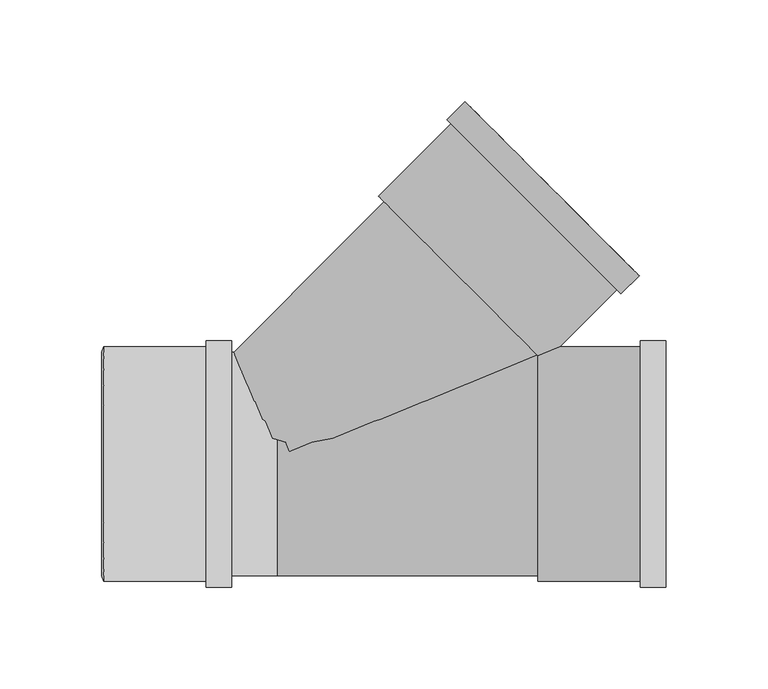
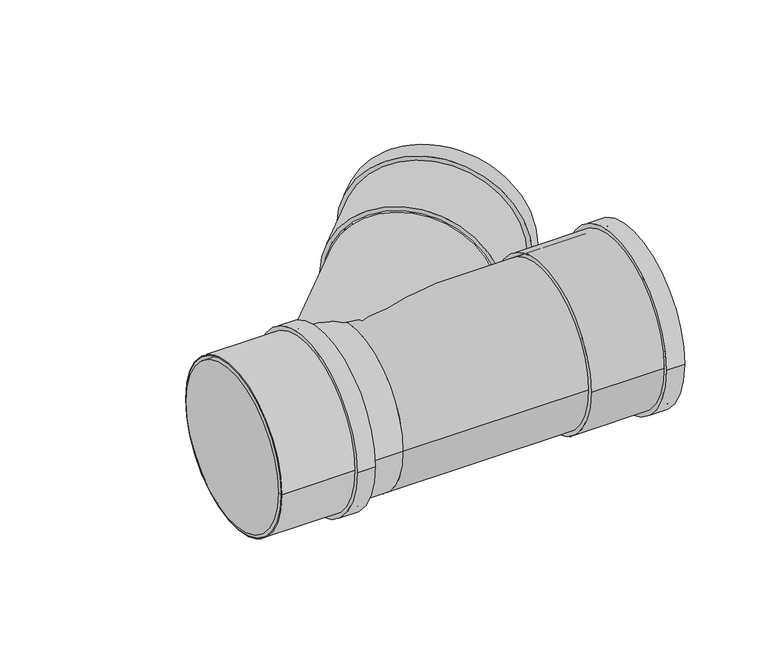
"""IFC4 building model written with IfcOpenShell, lengths in millimetres: pipe fitting geometry, Superdrain HTEA Branch : Superdrain HTEA Branch."""

from ifc_helpers import new_model, si_unit, point, frame, origin, origin_2d, place, context, project, spatial, polyline, circle_curve, trimmed, segment, composite_curve, outline, extrude, source, transform, mapped, element, save
from ifc_brep_helpers import plane_surface, cylinder_surface, revolved_surface, advanced_brep


def pipe_fitting_5e54109a(model_context):
    return source(origin(), model_context, "Body", "SolidModel", [
        extrude(outline(composite_curve([segment(trimmed(circle_curve(origin_2d(), 57.75), [point((57.75, 0.0))], [point((-57.75, 0.0))], False, "CARTESIAN"), True, "CONTINUOUS"), segment(trimmed(circle_curve(origin_2d(), 57.75), [point((-57.75, 0.0))], [point((57.75, 0.0))], False, "CARTESIAN"), True, "CONTINUOUS")], self_intersect=False), holes=[composite_curve([segment(trimmed(circle_curve(origin_2d(), 55.0), [point((55.0, 0.0))], [point((-55.0, 0.0))], True, "CARTESIAN"), True, "CONTINUOUS"), segment(trimmed(circle_curve(origin_2d(), 55.0), [point((-55.0, 0.0))], [point((55.0, 0.0))], True, "CARTESIAN"), True, "CONTINUOUS")], self_intersect=False)]), frame((-85.4, 0.0, 0.0), z_axis=(1.0, 0.0, 0.0), x_axis=(0.0, 1.0, 0.0)), (0.0, 0.0, 1.0), 63.0),
        extrude(outline(composite_curve([segment(trimmed(circle_curve(origin_2d(), 60.6375), [point((60.6375, 0.0))], [point((-60.6375, 0.0))], False, "CARTESIAN"), True, "CONTINUOUS"), segment(trimmed(circle_curve(origin_2d(), 60.6375), [point((-60.6375, 0.0))], [point((60.6375, 0.0))], False, "CARTESIAN"), True, "CONTINUOUS")], self_intersect=False), holes=[composite_curve([segment(trimmed(circle_curve(origin_2d(), 55.0), [point((55.0, 0.0))], [point((-55.0, 0.0))], True, "CARTESIAN"), True, "CONTINUOUS"), segment(trimmed(circle_curve(origin_2d(), 55.0), [point((-55.0, 0.0))], [point((55.0, 0.0))], True, "CARTESIAN"), True, "CONTINUOUS")], self_intersect=False)]), frame((-35.0, 0.0, 0.0), z_axis=(1.0, 0.0, 0.0), x_axis=(0.0, 1.0, 0.0)), (0.0, 0.0, 1.0), 12.6),
        advanced_brep(
        [(-86.4, 55.0, 0.0), (-86.4, -55.0, 0.0), (-85.4, 57.75, 0.0), (-85.4, -57.75, 0.0)],
        [
            (0, 1, circle_curve(frame((-86.4, 0.0, 0.0), z_axis=(-1.0, 0.0, 0.0), x_axis=(0.0, 1.0000000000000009, 0.0)), 55.0)),
            (1, 0, circle_curve(frame((-86.4, 0.0, 0.0), z_axis=(-1.0, 0.0, 0.0), x_axis=(0.0, -1.0000000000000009, 0.0)), 55.0)),
            (2, 3, circle_curve(frame((-85.4, 0.0, 0.0), z_axis=(1.0, 0.0, 0.0), x_axis=(0.0, -1.0000000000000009, 0.0)), 57.75)),
            (3, 2, circle_curve(frame((-85.4, 0.0, 0.0), z_axis=(1.0, 0.0, 0.0), x_axis=(0.0, 1.0000000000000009, 0.0)), 57.75)),
            (3, 1),
            (0, 2),
        ],
        [
            plane_surface(frame((-86.4, 0.0, 0.0), z_axis=(-1.0, 0.0, 0.0), x_axis=(0.0, 0.0, -1.0))),
            plane_surface(frame((-85.4, 0.0, 0.0), z_axis=(1.0, 0.0, 0.0), x_axis=(0.0, 0.0, -1.0))),
            revolved_surface(polyline([(-86.4, 54.99999999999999, 0.0), (-85.4, 57.75, 0.0)]), (-106.4, 0.0, 0.0), (1.0000000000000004, 0.0, 0.0)),
            revolved_surface(polyline([(-86.4, -54.99999999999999, 0.0), (-85.4, -57.75, 0.0)]), (-106.4, 0.0, 0.0), (1.0000000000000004, 0.0, 0.0)),
        ],
        [
            (0, [[1, 2]]),
            (1, [[3, 4]]),
            (2, [[-4, 5, -1, 6]]),
            (3, [[-3, -6, -2, -5]]),
        ],
    ),
        advanced_brep(
        [(128.6, -57.75, 0.0), (128.6, 57.75, 0.0), (191.6, -57.75, 0.0), (191.6, 57.75, 0.0), (191.6, -55.0, 0.0), (191.6, 55.0, 0.0), (129.6, -55.0, 0.0), (129.6, 55.0, 0.0)],
        [
            (0, 1, circle_curve(frame((128.6, 0.0, 0.0), z_axis=(-1.0, 0.0, 0.0), x_axis=(0.0, 1.0, 0.0)), 57.75)),
            (1, 0, circle_curve(frame((128.6, 0.0, 0.0), z_axis=(-1.0, 0.0, 0.0), x_axis=(0.0, 1.0, 0.0)), 57.75)),
            (2, 3, circle_curve(frame((191.6, 0.0, 0.0), z_axis=(1.0, 0.0, 0.0), x_axis=(0.0, 1.0, 0.0)), 57.75)),
            (3, 2, circle_curve(frame((191.6, 0.0, 0.0), z_axis=(1.0, 0.0, 0.0), x_axis=(0.0, 1.0, 0.0)), 57.75)),
            (4, 5, circle_curve(frame((191.6, 0.0, 0.0), z_axis=(-1.0, 0.0, 0.0), x_axis=(0.0, 1.0, 0.0)), 55.0)),
            (5, 4, circle_curve(frame((191.6, 0.0, 0.0), z_axis=(-1.0, 0.0, 0.0), x_axis=(0.0, 1.0, 0.0)), 55.0)),
            (0, 2),
            (3, 1),
            (6, 7, circle_curve(frame((129.6, 0.0, 0.0), z_axis=(-1.0, 0.0, 0.0), x_axis=(0.0, 1.0, 0.0)), 55.0)),
            (7, 5),
            (4, 6),
            (7, 6, circle_curve(frame((129.6, 0.0, 0.0), z_axis=(-1.0, 0.0, 0.0), x_axis=(0.0, 1.0, 0.0)), 55.0)),
        ],
        [
            plane_surface(frame((128.6, 0.0, 0.0), z_axis=(-1.0, 0.0, 0.0), x_axis=(0.0, 0.0, 1.0))),
            plane_surface(frame((191.6, 0.0, 0.0), z_axis=(1.0, 0.0, 0.0), x_axis=(0.0, 0.0, 1.0))),
            cylinder_surface(frame((128.6, 0.0, 0.0), z_axis=(-1.0, 0.0, 0.0), x_axis=(0.0, 1.0, 0.0)), 57.75),
            revolved_surface(polyline([(129.6, 55.0, 0.0), (191.6, 55.0, 0.0)]), (129.6, 0.0, 0.0), (-1.0, 0.0, 0.0)),
            plane_surface(frame((129.6, 0.0, 0.0), z_axis=(1.0, 0.0, 0.0), x_axis=(0.0, 0.0, 1.0))),
        ],
        [
            (0, [[1, 2]]),
            (1, [[3, 4], [5, 6]]),
            (2, [[-1, 7, -4, 8]]),
            (2, [[-2, -8, -3, -7]]),
            (3, [[9, 10, -5, 11]]),
            (3, [[12, -11, -6, -10]]),
            (4, [[-12, -9]]),
        ],
    ),
        extrude(outline(composite_curve([segment(trimmed(circle_curve(origin_2d(), 60.6375), [point((60.6375, 0.0))], [point((-60.6375, 0.0))], False, "CARTESIAN"), True, "CONTINUOUS"), segment(trimmed(circle_curve(origin_2d(), 60.6375), [point((-60.6375, 0.0))], [point((60.6375, 0.0))], False, "CARTESIAN"), True, "CONTINUOUS")], self_intersect=False), holes=[composite_curve([segment(trimmed(circle_curve(origin_2d(), 55.0), [point((55.0, 0.0))], [point((-55.0, 0.0))], True, "CARTESIAN"), True, "CONTINUOUS"), segment(trimmed(circle_curve(origin_2d(), 55.0), [point((-55.0, 0.0))], [point((55.0, 0.0))], True, "CARTESIAN"), True, "CONTINUOUS")], self_intersect=False)]), frame((179.0, 0.0, 0.0), z_axis=(1.0, 0.0, 0.0), x_axis=(0.0, 1.0, 0.0)), (0.0, 0.0, 1.0), 12.6),
        extrude(outline(composite_curve([segment(trimmed(circle_curve(origin_2d(), 53.9), [point((0.0, 53.9))], [point((0.0, -53.9))], False, "CARTESIAN"), True, "CONTINUOUS"), segment(trimmed(circle_curve(origin_2d(), 53.9), [point((0.0, -53.9))], [point((0.0, 53.9))], False, "CARTESIAN"), True, "CONTINUOUS")], self_intersect=False)), frame((0.0, 0.0, 0.0), z_axis=(0.7071067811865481, 0.707106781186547, 0.0), x_axis=(0.0, 0.0, 1.0)), (0.0, 0.0, 1.0), 128.6),
        extrude(outline(composite_curve([segment(trimmed(circle_curve(origin_2d(), 55.0), [point((55.0, 0.0))], [point((-55.0, 0.0))], False, "CARTESIAN"), True, "CONTINUOUS"), segment(trimmed(circle_curve(origin_2d(), 55.0), [point((-55.0, 0.0))], [point((55.0, 0.0))], False, "CARTESIAN"), True, "CONTINUOUS")], self_intersect=False)), frame((-85.4, 0.0, 0.0), z_axis=(1.0, 0.0, 0.0), x_axis=(0.0, 1.0, 0.0)), (0.0, 0.0, 1.0), 85.4),
        extrude(outline(composite_curve([segment(trimmed(circle_curve(origin_2d(), 55.0), [point((-55.0, 0.0))], [point((55.0, 0.0))], False, "CARTESIAN"), True, "CONTINUOUS"), segment(trimmed(circle_curve(origin_2d(), 55.0), [point((55.0, 0.0))], [point((-55.0, 0.0))], False, "CARTESIAN"), True, "CONTINUOUS")], self_intersect=False)), frame((0.0, 0.0, 0.0), z_axis=(1.0, 0.0, 0.0), x_axis=(0.0, 1.0, 0.0)), (0.0, 0.0, 1.0), 128.6),
        extrude(outline(composite_curve([segment(trimmed(circle_curve(origin_2d(), 60.6375), [point((0.0, 60.6375))], [point((0.0, -60.6375))], False, "CARTESIAN"), True, "CONTINUOUS"), segment(trimmed(circle_curve(origin_2d(), 60.6375), [point((0.0, -60.6375))], [point((0.0, 60.6375))], False, "CARTESIAN"), True, "CONTINUOUS")], self_intersect=False), holes=[composite_curve([segment(trimmed(circle_curve(origin_2d(), 55.0), [point((0.0, 55.0))], [point((0.0, -55.0))], True, "CARTESIAN"), True, "CONTINUOUS"), segment(trimmed(circle_curve(origin_2d(), 55.0), [point((0.0, -55.0))], [point((0.0, 55.0))], True, "CARTESIAN"), True, "CONTINUOUS")], self_intersect=False)]), frame((126.5721138, 126.5721138, 0.0), z_axis=(0.7071067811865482, 0.7071067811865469, 0.0), x_axis=(0.0, 0.0, 1.0)), (0.0, 0.0, 1.0), 12.6),
        extrude(outline(composite_curve([segment(trimmed(circle_curve(origin_2d(), 57.75), [point((0.0, 57.7500001))], [point((0.0, -57.7500001))], False, "CARTESIAN"), True, "CONTINUOUS"), segment(trimmed(circle_curve(origin_2d(), 57.75), [point((0.0, -57.7500001))], [point((0.0, 57.7500001))], False, "CARTESIAN"), True, "CONTINUOUS")], self_intersect=False), holes=[composite_curve([segment(trimmed(circle_curve(origin_2d(), 55.0), [point((0.0, 55.0))], [point((0.0, -55.0))], True, "CARTESIAN"), True, "CONTINUOUS"), segment(trimmed(circle_curve(origin_2d(), 55.0), [point((0.0, -55.0))], [point((0.0, 55.0))], True, "CARTESIAN"), True, "CONTINUOUS")], self_intersect=False)]), frame((90.9339321, 90.9339321, 0.0), z_axis=(0.7071067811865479, 0.7071067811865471, 0.0), x_axis=(0.0, 0.0, 1.0)), (0.0, 0.0, 1.0), 63.0),
    ])


if __name__ == "__main__":
    model = new_model("IFC4")
    model_context = context("Model", 3, world=origin())
    ifc_project = project(units=[si_unit("LENGTHUNIT", "METRE", prefix="MILLI")], contexts=[model_context])
    site = spatial("IfcSite", under=ifc_project)
    building = spatial("IfcBuilding", under=site)
    placement = place(None, origin())
    pipe_fitting_shape = pipe_fitting_5e54109a(model_context)
    element("IfcPipeFitting", 1, ObjectType="Superdrain HTEA Branch : Superdrain HTEA Branch", at=placement, inside=building, context=model_context, shape_type="MappedRepresentation", body=[
        mapped(pipe_fitting_shape, transform((0.0, 0.0, 0.0), x_axis=(1.0, 0.0, 0.0), y_axis=(0.0, 1.0, 0.0), z_axis=(0.0, 0.0, 1.0))),
    ])
    save(model, "model.ifc")
